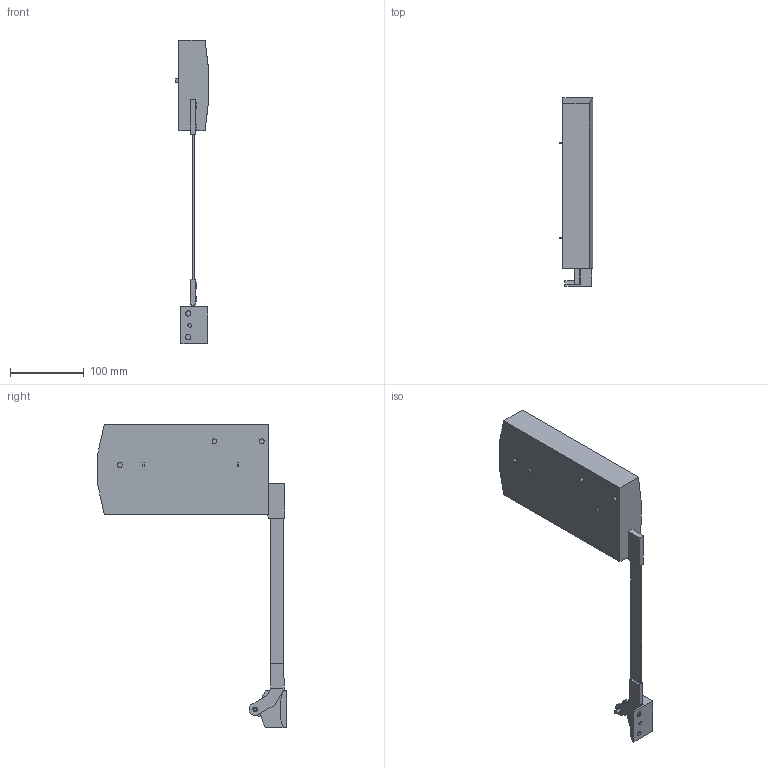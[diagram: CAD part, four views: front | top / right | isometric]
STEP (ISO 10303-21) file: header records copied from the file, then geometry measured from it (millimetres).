
FILE_DESCRIPTION (( 'STEP AP214' ), '1' );
FILE_NAME ('F152147842_KINVARO F20 SET WITH BKT_TYP 4C_L_CLOSED.step', '2021-02-17T08:15:32', ( '' ), ( '' ), 'SwSTEP 2.0', 'SolidWorks 2019', '' );
FILE_SCHEMA (( 'AUTOMOTIVE_DESIGN' ));
Length unit declared in the file: millimetre
Products named in the file (1): F152147842_KINVARO F20 SET WITH BKT_TYP 4C_L_CLOSED
Bounding box: 45.35 x 255.03 x 410.73 mm (x, y, z)
Volume: 1134694 mm3; surface area: 105352.5 mm2
Topology: 1 solids, 1 shells, 119 faces, 294 edges, 196 vertices
Faces by surface type: plane 93, cylinder 20, bspline 6
Entity records: 4280 total; most frequent: CARTESIAN_POINT 1408, ORIENTED_EDGE 588, DIRECTION 552, EDGE_CURVE 294, VECTOR 240, LINE 240, VERTEX_POINT 196, AXIS2_PLACEMENT_3D 156
